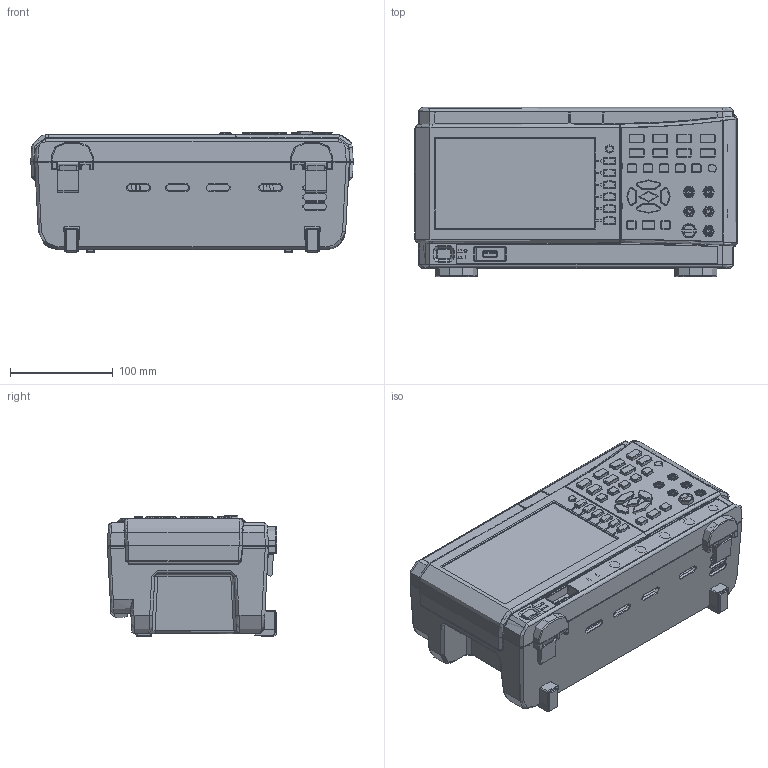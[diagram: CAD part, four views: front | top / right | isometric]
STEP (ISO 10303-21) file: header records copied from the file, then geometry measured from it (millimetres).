
FILE_DESCRIPTION(('Creo Elements/Direct Modeling STEP Export'),'2;1');
FILE_NAME('EDU34450A.stp','2020-12-29T16:52:50',(''),(''),'Creo Elements/Direct Modeling STEP processor for AP214 (Solid Model)','Creo Elements/Direct Modeling 19.0F 14-Feb-2017 (C) Parametric Technology GmbH','');
FILE_SCHEMA(('AUTOMOTIVE_DESIGN { 1 0 10303 214 1 1 1 1 }'));
Products named in the file (11): Front-panel; Front-assy; _BREP_376; _BREP_383; _BREP_382; _BREP_414; _BREP_386; HOUKE; _BREP_379; Rear-assy; EDU34450A
Assembly tree (10 placements, depth 3):
  EDU34450A
    Rear-assy
      _BREP_379
      HOUKE
      _BREP_386
      _BREP_414
      _BREP_382
      _BREP_383
      _BREP_376
    Front-assy
      Front-panel
Bounding box: 313.6 x 164.7 x 118.6 mm (x, y, z)
Volume: 397644.1 mm3; surface area: 539983.7 mm2
Topology: 9 solids, 14 shells, 10978 faces, 29906 edges, 19326 vertices
Faces by surface type: plane 5320, cylinder 2983, cone 923, extrusion 734, bspline 658, torus 295, sphere 61, revolution 4
Entity records: 440191 total; most frequent: CARTESIAN_POINT 170289, ORIENTED_EDGE 59785, DIRECTION 50080, EDGE_CURVE 29847, VERTEX_POINT 19336, VECTOR 18906, LINE 18172, AXIS2_PLACEMENT_3D 15585
